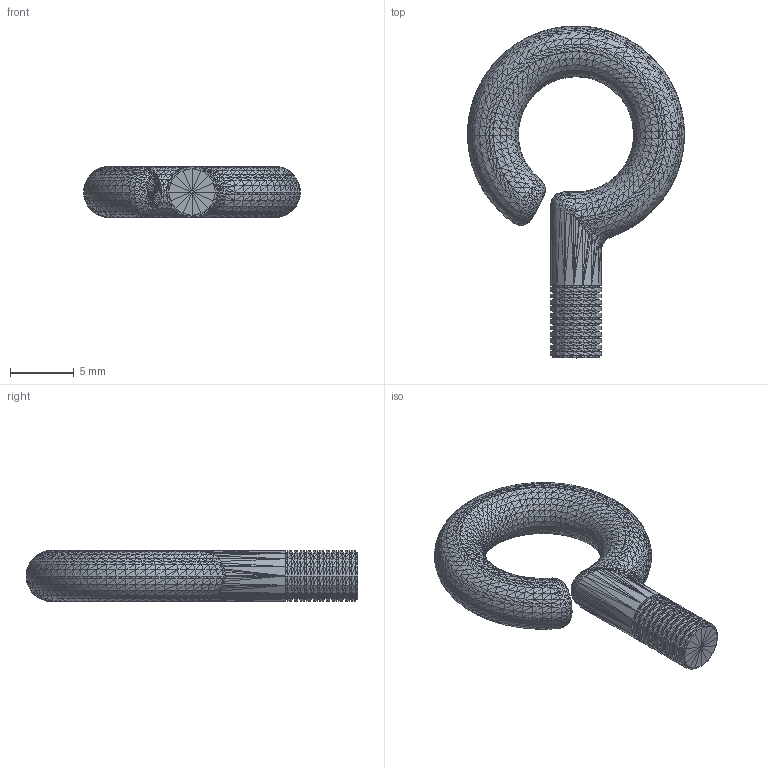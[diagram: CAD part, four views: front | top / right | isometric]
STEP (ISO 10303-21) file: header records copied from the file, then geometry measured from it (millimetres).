
FILE_DESCRIPTION((''),'2;1');
FILE_NAME('003550', '2025-07-31T12:09:03', (''), (''), 'ImageToStl.com STEP Converter','', '');
FILE_SCHEMA(('AUTOMOTIVE_DESIGN_CC2'));
Length unit declared in the file: metre
Products named in the file (1): product0
Bounding box: 16.98 x 25.99 x 4 mm (x, y, z)
Surface area: 671.4 mm2 (no closed solid volume)
Topology: 0 solids, 6022 shells, 6022 faces, 18066 edges, 3013 vertices
Faces by surface type: plane 6022
Entity records: 138538 total; most frequent: DIRECTION 30112, ORIENTED_EDGE 18066, EDGE_CURVE 18066, LINE 18066, VECTOR 18066, AXIS2_PLACEMENT_3D 6023, FACE_SURFACE 6022, PLANE 6022
